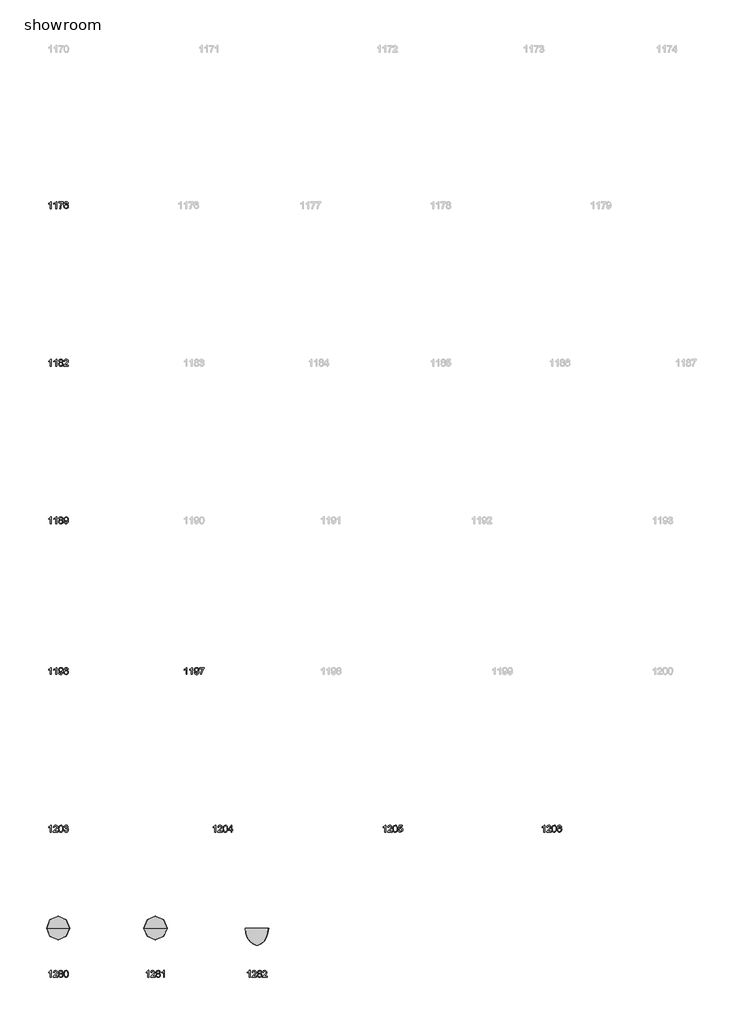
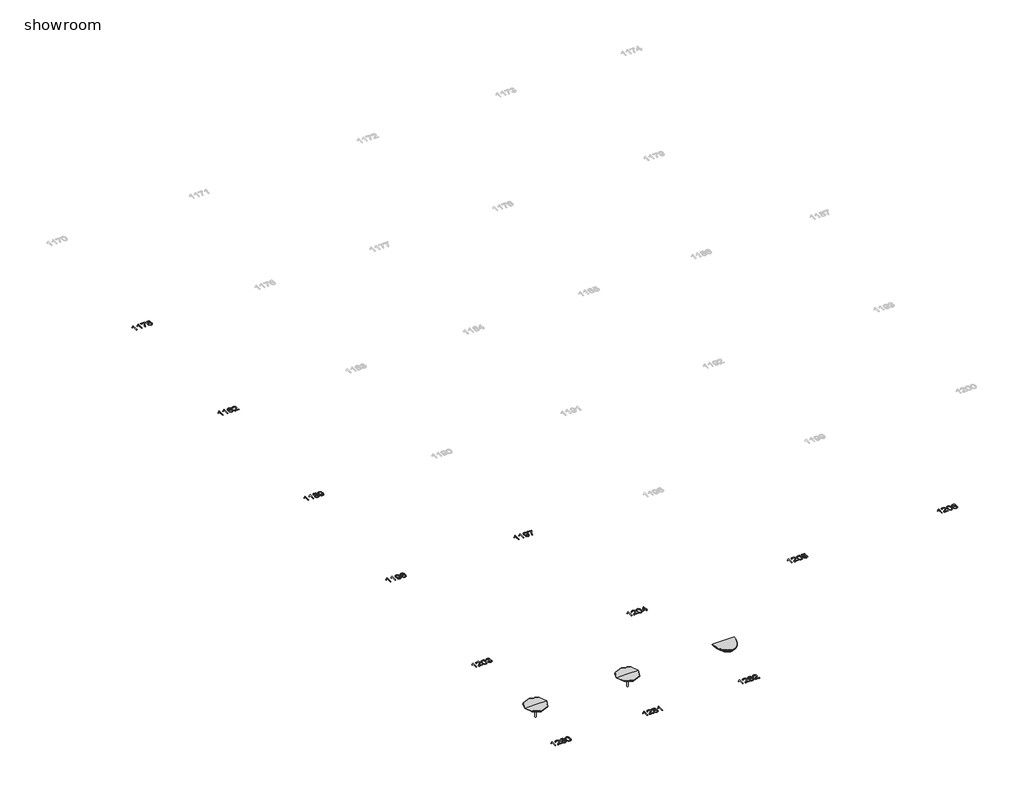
# One storey, part 1 of 5: 12 proxies, 3 furniture elements.
"""IFC4 building model written with IfcOpenShell, lengths in millimetres."""

from ifc_helpers import new_model, si_unit, origin, origin_with_axes, place, context, project, spatial, polyline, outline, extrude, transform, mapped, element, save
from components import furniture_37731700, furniture_d83bdb64

model = new_model("IFC4")

# Units and contexts
model_context = context("Model", 3, world=origin())
ifc_project = project(units=[si_unit("LENGTHUNIT", "METRE", prefix="MILLI")], contexts=[model_context])

# Site, building, storey
site = spatial("IfcSite", under=ifc_project)
building = spatial("IfcBuilding", under=site)
storey = spatial("IfcBuildingStorey", under=building, Name="showroom", Elevation=0.0)

# Proxies
placement = place(None, origin())
element("IfcBuildingElementProxy", 1, Name="100mm Arial", ObjectType="100mm Arial", at=placement, inside=storey, context=model_context, shape_type="SweptSolid", body=[
    extrude(outline(polyline([(-1709.6695901, -744.8979193), (-1722.2266289, -744.8979193), (-1722.2266289, -666.6126308), (-1734.1214801, -675.0861794), (-1747.3407064, -681.4260124), (-1747.3407064, -669.5556867), (-1728.9343439, -657.8079883), (-1717.762994, -644.4416092), (-1709.6695901, -644.4416092), (-1709.6695901, -744.8979193)])), origin_with_axes(), (0.0, 0.0, 1.0), 2.0),
    extrude(outline(polyline([(-1632.7577277, -744.8979193), (-1645.3147664, -744.8979193), (-1645.3147664, -666.6126308), (-1657.2096176, -675.0861794), (-1670.428844, -681.4260124), (-1670.428844, -669.5556867), (-1652.0224815, -657.8079883), (-1640.8511316, -644.4416092), (-1632.7577277, -644.4416092), (-1632.7577277, -744.8979193)])), origin_with_axes(), (0.0, 0.0, 1.0), 2.0),
    extrude(outline(polyline([(-1602.9347606, -658.5682778), (-1602.9347606, -646.011239), (-1537.0103071, -646.011239), (-1537.0103071, -656.1647821), (-1555.7109751, -683.1795833), (-1570.0215848, -717.6010753), (-1574.6814234, -744.8979193), (-1587.2384621, -744.8979193), (-1582.2475297, -716.5710057), (-1568.5500568, -684.5530094), (-1549.5673458, -658.5682778), (-1602.9347606, -658.5682778)])), origin_with_axes(), (0.0, 0.0, 1.0), 2.0),
    extrude(outline(polyline([(-1461.6680744, -671.1253166), (-1474.2251132, -672.6949464), (-1478.9830537, -662.2225723), (-1491.5646179, -656.9986479), (-1502.8953834, -660.0398058), (-1511.4670339, -671.4564104), (-1515.0354892, -693.8358984), (-1503.9622412, -683.8172454), (-1490.2402427, -680.5430956), (-1478.6396972, -682.7810444), (-1468.903087, -689.4948909), (-1462.2996052, -699.7526672), (-1460.0984446, -712.6224056), (-1464.2432484, -729.9496476), (-1475.6475903, -742.2123808), (-1492.1041782, -746.4675492), (-1506.3504084, -743.6471205), (-1517.6965023, -735.1858347), (-1525.1185216, -720.2498257), (-1527.592528, -698.0052277), (-1524.8456757, -672.9953834), (-1516.6051191, -655.895002), (-1505.3540614, -647.3049574), (-1490.779803, -644.4416092), (-1479.7617372, -646.2135741), (-1470.9387007, -651.529469), (-1464.7582832, -659.9723607), (-1461.6680744, -671.1253166)]), holes=[polyline([(-1515.0354892, -712.4262019), (-1512.1292214, -723.3032462), (-1504.4036995, -731.2004464), (-1493.0851968, -733.9105104), (-1484.7986549, -732.5064275), (-1478.2840779, -728.2941786), (-1474.062632, -721.6723027), (-1472.6554834, -713.0393385), (-1474.0442379, -704.7527966), (-1478.2105015, -698.4344233), (-1484.8354431, -694.4337066), (-1493.6002316, -693.1001344), (-1508.793758, -698.4344233), (-1513.4750564, -704.5995124), (-1515.0354892, -712.4262019)])]), origin_with_axes(), (0.0, 0.0, 1.0), 2.0),
])
element("IfcBuildingElementProxy", 2, Name="100mm Arial", ObjectType="100mm Arial", at=placement, inside=storey, context=model_context, shape_type="SweptSolid", body=[
    extrude(outline(polyline([(-1709.6695901, -3044.8979193), (-1722.2266289, -3044.8979193), (-1722.2266289, -2966.6126308), (-1734.1214801, -2975.0861794), (-1747.3407064, -2981.4260124), (-1747.3407064, -2969.5556867), (-1728.9343439, -2957.8079883), (-1717.762994, -2944.4416092), (-1709.6695901, -2944.4416092), (-1709.6695901, -3044.8979193)])), origin_with_axes(), (0.0, 0.0, 1.0), 2.0),
    extrude(outline(polyline([(-1632.7577277, -3044.8979193), (-1645.3147664, -3044.8979193), (-1645.3147664, -2966.6126308), (-1657.2096176, -2975.0861794), (-1670.428844, -2981.4260124), (-1670.428844, -2969.5556867), (-1652.0224815, -2957.8079883), (-1640.8511316, -2944.4416092), (-1632.7577277, -2944.4416092), (-1632.7577277, -3044.8979193)])), origin_with_axes(), (0.0, 0.0, 1.0), 2.0),
    extrude(outline(polyline([(-1584.6387627, -2989.5684673), (-1596.0798927, -2981.769369), (-1599.7955009, -2969.6292631), (-1597.7721499, -2959.8129452), (-1591.702097, -2951.7011472), (-1582.2659238, -2946.2564937), (-1570.1442121, -2944.4416092), (-1557.9489239, -2946.2994133), (-1548.3901234, -2951.8728255), (-1542.2097059, -2960.1133822), (-1540.1495667, -2969.9726196), (-1543.816124, -2981.8061572), (-1554.938423, -2989.5684673), (-1541.5843065, -2999.415442), (-1537.0103071, -3015.6635634), (-1539.2789127, -3027.6687792), (-1546.0847296, -3037.5893304), (-1556.5938919, -3044.2479945), (-1569.9725338, -3046.4675492), (-1583.3511757, -3044.2387974), (-1593.860338, -3037.5525422), (-1600.666155, -3027.5369548), (-1602.9347606, -3015.3202069), (-1598.1768201, -2998.6919407), (-1584.6387627, -2989.5684673)]), holes=[polyline([(-1590.3777218, -3014.8787485), (-1588.2807944, -3024.3333158), (-1580.8618409, -3031.4089128), (-1569.874432, -3033.9105104), (-1561.3273069, -3032.5953323), (-1554.9138975, -3028.6497979), (-1549.5673458, -3015.271156), (-1555.0855758, -3001.6349967), (-1561.646138, -2997.5882947), (-1570.2913649, -2996.2393941), (-1578.7189283, -2997.5699006), (-1585.0679584, -3001.5614203), (-1590.3777218, -3014.8787485)]), polyline([(-1587.2384621, -2969.9971451), (-1582.78709, -2979.8563826), (-1569.825381, -2983.6823553), (-1557.1211895, -2979.880908), (-1552.7066055, -2970.5612308), (-1557.2683423, -2960.9104598), (-1569.9725338, -2956.9986479), (-1582.7135136, -2960.8246207), (-1587.2384621, -2969.9971451)])]), origin_with_axes(), (0.0, 0.0, 1.0), 2.0),
    extrude(outline(polyline([(-1461.6680744, -3032.3408806), (-1461.6680744, -3044.8979193), (-1527.592528, -3044.8979193), (-1526.2436273, -3036.2404297), (-1518.6162073, -3022.9108388), (-1502.8953834, -3008.3549745), (-1481.2148711, -2987.4347517), (-1475.7947431, -2973.2099812), (-1480.9083028, -2961.6952748), (-1494.2624192, -2956.9986479), (-1508.1806214, -2961.5849102), (-1513.4658594, -2974.2645763), (-1526.0228981, -2972.6949464), (-1522.9786746, -2960.5487092), (-1516.3966526, -2951.6766218), (-1506.6201886, -2946.2503623), (-1493.9926391, -2944.4416092), (-1481.2731191, -2946.4526974), (-1471.5150492, -2952.4859621), (-1465.3070405, -2961.499071), (-1463.2377043, -2972.4496917), (-1465.4695217, -2984.3568057), (-1472.8884753, -2996.6685898), (-1490.8779049, -3013.8732044), (-1505.3234045, -3025.9519966), (-1510.9887873, -3032.3408806), (-1461.6680744, -3032.3408806)])), origin_with_axes(), (0.0, 0.0, 1.0), 2.0),
])
element("IfcBuildingElementProxy", 3, Name="100mm Arial", ObjectType="100mm Arial", at=placement, inside=storey, context=model_context, shape_type="SweptSolid", body=[
    extrude(outline(polyline([(-1709.6695901, -5344.8979193), (-1722.2266289, -5344.8979193), (-1722.2266289, -5266.6126308), (-1734.1214801, -5275.0861794), (-1747.3407064, -5281.4260124), (-1747.3407064, -5269.5556867), (-1728.9343439, -5257.8079883), (-1717.762994, -5244.4416092), (-1709.6695901, -5244.4416092), (-1709.6695901, -5344.8979193)])), origin_with_axes(), (0.0, 0.0, 1.0), 2.0),
    extrude(outline(polyline([(-1632.7577277, -5344.8979193), (-1645.3147664, -5344.8979193), (-1645.3147664, -5266.6126308), (-1657.2096176, -5275.0861794), (-1670.428844, -5281.4260124), (-1670.428844, -5269.5556867), (-1652.0224815, -5257.8079883), (-1640.8511316, -5244.4416092), (-1632.7577277, -5244.4416092), (-1632.7577277, -5344.8979193)])), origin_with_axes(), (0.0, 0.0, 1.0), 2.0),
    extrude(outline(polyline([(-1584.6387627, -5289.5684673), (-1596.0798927, -5281.769369), (-1599.7955009, -5269.6292631), (-1597.7721499, -5259.8129452), (-1591.702097, -5251.7011472), (-1582.2659238, -5246.2564937), (-1570.1442121, -5244.4416092), (-1557.9489239, -5246.2994133), (-1548.3901234, -5251.8728255), (-1542.2097059, -5260.1133822), (-1540.1495667, -5269.9726196), (-1543.816124, -5281.8061572), (-1554.938423, -5289.5684673), (-1541.5843065, -5299.415442), (-1537.0103071, -5315.6635634), (-1539.2789127, -5327.6687792), (-1546.0847296, -5337.5893304), (-1556.5938919, -5344.2479945), (-1569.9725338, -5346.4675492), (-1583.3511757, -5344.2387974), (-1593.860338, -5337.5525422), (-1600.666155, -5327.5369548), (-1602.9347606, -5315.3202069), (-1598.1768201, -5298.6919407), (-1584.6387627, -5289.5684673)]), holes=[polyline([(-1590.3777218, -5314.8787485), (-1588.2807944, -5324.3333158), (-1580.8618409, -5331.4089128), (-1569.874432, -5333.9105104), (-1561.3273069, -5332.5953323), (-1554.9138975, -5328.6497979), (-1549.5673458, -5315.271156), (-1555.0855758, -5301.6349967), (-1561.646138, -5297.5882947), (-1570.2913649, -5296.2393941), (-1578.7189283, -5297.5699006), (-1585.0679584, -5301.5614203), (-1590.3777218, -5314.8787485)]), polyline([(-1587.2384621, -5269.9971451), (-1582.78709, -5279.8563826), (-1569.825381, -5283.6823553), (-1557.1211895, -5279.880908), (-1552.7066055, -5270.5612308), (-1557.2683423, -5260.9104598), (-1569.9725338, -5256.9986479), (-1582.7135136, -5260.8246207), (-1587.2384621, -5269.9971451)])]), origin_with_axes(), (0.0, 0.0, 1.0), 2.0),
    extrude(outline(polyline([(-1524.4532683, -5319.7838418), (-1511.8962295, -5318.2142119), (-1506.2553723, -5330.1949023), (-1495.5622689, -5333.9105104), (-1485.3964631, -5331.5192774), (-1478.5048071, -5325.1303935), (-1474.3967915, -5314.2165609), (-1472.581907, -5299.6484339), (-1472.6554834, -5297.1958873), (-1482.6986618, -5306.7117682), (-1496.4697112, -5310.3660627), (-1507.9200383, -5308.1342453), (-1517.4512476, -5301.438793), (-1523.8799855, -5291.0951775), (-1526.0228981, -5277.9188707), (-1523.7757523, -5264.3072369), (-1517.0343147, -5253.6386591), (-1506.9083628, -5246.7408716), (-1494.5076739, -5244.4416092), (-1476.6163462, -5249.690059), (-1464.3045621, -5264.6505934), (-1460.0984446, -5292.7567779), (-1464.2922993, -5323.2541953), (-1469.5070266, -5333.2452571), (-1476.763499, -5340.5323863), (-1485.7490167, -5344.9837585), (-1496.1508801, -5346.4675492), (-1506.886903, -5344.717044), (-1515.4524221, -5339.4655285), (-1521.4427673, -5331.0440965), (-1524.4532683, -5319.7838418)]), holes=[polyline([(-1472.6554834, -5277.6245651), (-1474.0105154, -5269.1142283), (-1478.0756114, -5262.5659288), (-1484.3847876, -5258.3904682), (-1492.4720602, -5256.9986479), (-1500.8597697, -5258.4977671), (-1507.5797474, -5262.9951245), (-1511.9943314, -5269.8775835), (-1513.4658594, -5278.5320074), (-1512.0740391, -5286.2912518), (-1507.8985785, -5292.4502095), (-1501.3441476, -5296.4693203), (-1492.8154167, -5297.8090239), (-1478.3331288, -5292.4502095), (-1474.0748947, -5286.0643912), (-1472.6554834, -5277.6245651)])]), origin_with_axes(), (0.0, 0.0, 1.0), 2.0),
])
element("IfcBuildingElementProxy", 4, Name="100mm Arial", ObjectType="100mm Arial", at=placement, inside=storey, context=model_context, shape_type="SweptSolid", body=[
    extrude(outline(polyline([(-1709.6695901, -7544.8979193), (-1722.2266289, -7544.8979193), (-1722.2266289, -7466.6126308), (-1734.1214801, -7475.0861794), (-1747.3407064, -7481.4260124), (-1747.3407064, -7469.5556867), (-1728.9343439, -7457.8079883), (-1717.762994, -7444.4416092), (-1709.6695901, -7444.4416092), (-1709.6695901, -7544.8979193)])), origin_with_axes(), (0.0, 0.0, 1.0), 2.0),
    extrude(outline(polyline([(-1632.7577277, -7544.8979193), (-1645.3147664, -7544.8979193), (-1645.3147664, -7466.6126308), (-1657.2096176, -7475.0861794), (-1670.428844, -7481.4260124), (-1670.428844, -7469.5556867), (-1652.0224815, -7457.8079883), (-1640.8511316, -7444.4416092), (-1632.7577277, -7444.4416092), (-1632.7577277, -7544.8979193)])), origin_with_axes(), (0.0, 0.0, 1.0), 2.0),
    extrude(outline(polyline([(-1601.3651307, -7519.7838418), (-1588.808092, -7518.2142119), (-1583.1672347, -7530.1949023), (-1572.4741314, -7533.9105104), (-1562.3083256, -7531.5192774), (-1555.4166695, -7525.1303935), (-1551.3086539, -7514.2165609), (-1549.4937694, -7499.6484339), (-1549.5673458, -7497.1958873), (-1559.6105243, -7506.7117682), (-1573.3815736, -7510.3660627), (-1584.8319007, -7508.1342453), (-1594.3631101, -7501.438793), (-1600.791848, -7491.0951775), (-1602.9347606, -7477.9188707), (-1600.6876147, -7464.3072369), (-1593.9461772, -7453.6386591), (-1583.8202253, -7446.7408716), (-1571.4195363, -7444.4416092), (-1553.5282086, -7449.690059), (-1541.2164245, -7464.6505934), (-1537.0103071, -7492.7567779), (-1541.2041618, -7523.2541953), (-1546.4188891, -7533.2452571), (-1553.6753614, -7540.5323863), (-1562.6608792, -7544.9837585), (-1573.0627426, -7546.4675492), (-1583.7987655, -7544.717044), (-1592.3642846, -7539.4655285), (-1598.3546298, -7531.0440965), (-1601.3651307, -7519.7838418)]), holes=[polyline([(-1549.5673458, -7477.6245651), (-1550.9223778, -7469.1142283), (-1554.9874739, -7462.5659288), (-1561.2966501, -7458.3904682), (-1569.3839226, -7456.9986479), (-1577.7716321, -7458.4977671), (-1584.4916099, -7462.9951245), (-1588.9061938, -7469.8775835), (-1590.3777218, -7478.5320074), (-1588.9859016, -7486.2912518), (-1584.810441, -7492.4502095), (-1578.2560101, -7496.4693203), (-1569.7272792, -7497.8090239), (-1555.2449913, -7492.4502095), (-1550.9867572, -7486.0643912), (-1549.5673458, -7477.6245651)])]), origin_with_axes(), (0.0, 0.0, 1.0), 2.0),
    extrude(outline(polyline([(-1461.6680744, -7471.1253166), (-1474.2251132, -7472.6949464), (-1478.9830537, -7462.2225723), (-1491.5646179, -7456.9986479), (-1502.8953834, -7460.0398058), (-1511.4670339, -7471.4564104), (-1515.0354892, -7493.8358984), (-1503.9622412, -7483.8172454), (-1490.2402427, -7480.5430956), (-1478.6396972, -7482.7810444), (-1468.903087, -7489.4948909), (-1462.2996052, -7499.7526672), (-1460.0984446, -7512.6224056), (-1464.2432484, -7529.9496476), (-1475.6475903, -7542.2123808), (-1492.1041782, -7546.4675492), (-1506.3504084, -7543.6471205), (-1517.6965023, -7535.1858347), (-1525.1185216, -7520.2498257), (-1527.592528, -7498.0052277), (-1524.8456757, -7472.9953834), (-1516.6051191, -7455.895002), (-1505.3540614, -7447.3049574), (-1490.779803, -7444.4416092), (-1479.7617372, -7446.2135741), (-1470.9387007, -7451.529469), (-1464.7582832, -7459.9723607), (-1461.6680744, -7471.1253166)]), holes=[polyline([(-1515.0354892, -7512.4262019), (-1512.1292214, -7523.3032462), (-1504.4036995, -7531.2004464), (-1493.0851968, -7533.9105104), (-1484.7986549, -7532.5064275), (-1478.2840779, -7528.2941786), (-1474.062632, -7521.6723027), (-1472.6554834, -7513.0393385), (-1474.0442379, -7504.7527966), (-1478.2105015, -7498.4344233), (-1484.8354431, -7494.4337066), (-1493.6002316, -7493.1001344), (-1508.793758, -7498.4344233), (-1513.4750564, -7504.5995124), (-1515.0354892, -7512.4262019)])]), origin_with_axes(), (0.0, 0.0, 1.0), 2.0),
])
element("IfcBuildingElementProxy", 5, Name="100mm Arial", ObjectType="100mm Arial", at=placement, inside=storey, context=model_context, shape_type="SweptSolid", body=[
    extrude(outline(polyline([(270.3304099, -7544.8979193), (257.7733711, -7544.8979193), (257.7733711, -7466.6126308), (245.8785199, -7475.0861794), (232.6592936, -7481.4260124), (232.6592936, -7469.5556867), (251.0656561, -7457.8079883), (262.237006, -7444.4416092), (270.3304099, -7444.4416092), (270.3304099, -7544.8979193)])), origin_with_axes(), (0.0, 0.0, 1.0), 2.0),
    extrude(outline(polyline([(347.2422723, -7544.8979193), (334.6852336, -7544.8979193), (334.6852336, -7466.6126308), (322.7903824, -7475.0861794), (309.571156, -7481.4260124), (309.571156, -7469.5556867), (327.9775185, -7457.8079883), (339.1488684, -7444.4416092), (347.2422723, -7444.4416092), (347.2422723, -7544.8979193)])), origin_with_axes(), (0.0, 0.0, 1.0), 2.0),
    extrude(outline(polyline([(378.6348693, -7519.7838418), (391.191908, -7518.2142119), (396.8327653, -7530.1949023), (407.5258686, -7533.9105104), (417.6916744, -7531.5192774), (424.5833305, -7525.1303935), (428.6913461, -7514.2165609), (430.5062306, -7499.6484339), (430.4326542, -7497.1958873), (420.3894757, -7506.7117682), (406.6184264, -7510.3660627), (395.1680993, -7508.1342453), (385.6368899, -7501.438793), (379.208152, -7491.0951775), (377.0652394, -7477.9188707), (379.3123853, -7464.3072369), (386.0538228, -7453.6386591), (396.1797747, -7446.7408716), (408.5804637, -7444.4416092), (426.4717914, -7449.690059), (438.7835755, -7464.6505934), (442.9896929, -7492.7567779), (438.7958382, -7523.2541953), (433.5811109, -7533.2452571), (426.3246386, -7540.5323863), (417.3391208, -7544.9837585), (406.9372574, -7546.4675492), (396.2012345, -7544.717044), (387.6357154, -7539.4655285), (381.6453702, -7531.0440965), (378.6348693, -7519.7838418)]), holes=[polyline([(430.4326542, -7477.6245651), (429.0776222, -7469.1142283), (425.0125261, -7462.5659288), (418.7033499, -7458.3904682), (410.6160774, -7456.9986479), (402.2283679, -7458.4977671), (395.5083901, -7462.9951245), (391.0938062, -7469.8775835), (389.6222782, -7478.5320074), (391.0140984, -7486.2912518), (395.189559, -7492.4502095), (401.7439899, -7496.4693203), (410.2727208, -7497.8090239), (424.7550087, -7492.4502095), (429.0132428, -7486.0643912), (430.4326542, -7477.6245651)])]), origin_with_axes(), (0.0, 0.0, 1.0), 2.0),
    extrude(outline(polyline([(453.9771019, -7458.5682778), (453.9771019, -7446.011239), (519.9015554, -7446.011239), (519.9015554, -7456.1647821), (501.2008873, -7483.1795833), (486.8902777, -7517.6010753), (482.2304391, -7544.8979193), (469.6734003, -7544.8979193), (474.6643327, -7516.5710057), (488.3618057, -7484.5530094), (507.3445166, -7458.5682778), (453.9771019, -7458.5682778)])), origin_with_axes(), (0.0, 0.0, 1.0), 2.0),
])
element("IfcBuildingElementProxy", 6, Name="100mm Arial", ObjectType="100mm Arial", at=placement, inside=storey, context=model_context, shape_type="SweptSolid", body=[
    extrude(outline(polyline([(-1709.6695901, -9844.8979193), (-1722.2266289, -9844.8979193), (-1722.2266289, -9766.6126308), (-1734.1214801, -9775.0861794), (-1747.3407064, -9781.4260124), (-1747.3407064, -9769.5556867), (-1728.9343439, -9757.8079883), (-1717.762994, -9744.4416092), (-1709.6695901, -9744.4416092), (-1709.6695901, -9844.8979193)])), origin_with_axes(), (0.0, 0.0, 1.0), 2.0),
    extrude(outline(polyline([(-1615.4917994, -9832.3408806), (-1615.4917994, -9844.8979193), (-1681.4162529, -9844.8979193), (-1680.0673522, -9836.2404297), (-1672.4399322, -9822.9108388), (-1656.7191083, -9808.3549745), (-1635.038596, -9787.4347517), (-1629.618468, -9773.2099812), (-1634.7320277, -9761.6952748), (-1648.0861441, -9756.9986479), (-1662.0043463, -9761.5849102), (-1667.2895843, -9774.2645763), (-1679.846623, -9772.6949464), (-1676.8023995, -9760.5487092), (-1670.2203775, -9751.6766218), (-1660.4439135, -9746.2503623), (-1647.816364, -9744.4416092), (-1635.096844, -9746.4526974), (-1625.3387741, -9752.4859621), (-1619.1307654, -9761.499071), (-1617.0614292, -9772.4496917), (-1619.2932466, -9784.3568057), (-1626.7122002, -9796.6685898), (-1644.7016298, -9813.8732044), (-1659.1471295, -9825.9519966), (-1664.8125122, -9832.3408806), (-1615.4917994, -9832.3408806)])), origin_with_axes(), (0.0, 0.0, 1.0), 2.0),
    extrude(outline(polyline([(-1602.9347606, -9795.4791046), (-1599.2436779, -9766.5758426), (-1588.2807944, -9749.9107882), (-1569.9725338, -9744.4416092), (-1555.3063049, -9747.6789707), (-1545.1772873, -9757.0109107), (-1539.2911754, -9771.8733433), (-1537.0103071, -9795.4791046), (-1540.6646015, -9824.2597394), (-1551.5906968, -9840.961582), (-1559.8220564, -9845.0910574), (-1569.9725338, -9846.4675492), (-1583.0200819, -9844.0763162), (-1592.9283703, -9836.9026173), (-1600.433163, -9819.9126005), (-1602.9347606, -9795.4791046)]), holes=[polyline([(-1590.3777218, -9795.4545792), (-1588.9061938, -9815.2067766), (-1584.4916099, -9826.6387096), (-1577.9187849, -9832.0925602), (-1569.9725338, -9833.9105104), (-1562.0262827, -9832.0864288), (-1555.4534577, -9826.6141842), (-1551.0388738, -9815.1761198), (-1549.5673458, -9795.4545792), (-1550.9898229, -9776.1469058), (-1555.257254, -9764.626068), (-1561.8178163, -9758.905503), (-1570.1196866, -9756.9986479), (-1577.9800986, -9758.6786424), (-1584.2954062, -9763.7186257), (-1588.8571429, -9775.9568334), (-1590.3777218, -9795.4545792)])]), origin_with_axes(), (0.0, 0.0, 1.0), 2.0),
    extrude(outline(polyline([(-1526.0228981, -9818.2142119), (-1513.4658594, -9816.6445821), (-1506.5374151, -9829.8638085), (-1493.5757062, -9833.9105104), (-1484.9672675, -9832.5186902), (-1478.3208661, -9828.3432295), (-1472.6554834, -9814.5599175), (-1478.2718152, -9801.573683), (-1492.5456366, -9796.4355978), (-1501.350279, -9797.8090239), (-1499.9523274, -9785.2519852), (-1497.9412392, -9785.399138), (-1483.6919432, -9781.7938944), (-1478.9462655, -9777.2198949), (-1477.3643729, -9770.7083836), (-1481.9506351, -9760.8859344), (-1493.7719099, -9756.9986479), (-1505.7403375, -9760.9227226), (-1511.8962295, -9772.6949464), (-1524.4532683, -9771.1253166), (-1520.7560542, -9759.8497334), (-1514.1770979, -9751.4313671), (-1505.1762517, -9746.1890487), (-1494.2133683, -9744.4416092), (-1479.0688928, -9747.8874372), (-1468.4738914, -9757.3052163), (-1464.8073341, -9769.9726196), (-1468.2899504, -9781.5486398), (-1478.5906462, -9789.8627728), (-1464.905436, -9798.4466861), (-1460.0984446, -9814.7806467), (-1462.5019403, -9827.0188544), (-1469.7124274, -9837.2459738), (-1480.5956031, -9844.1621553), (-1494.0171646, -9846.4675492), (-1506.1572704, -9844.4993805), (-1516.0410333, -9838.5948745), (-1522.9142953, -9829.5633715), (-1526.0228981, -9818.2142119)])), origin_with_axes(), (0.0, 0.0, 1.0), 2.0),
])
element("IfcBuildingElementProxy", 7, Name="100mm Arial", ObjectType="100mm Arial", at=placement, inside=storey, context=model_context, shape_type="SweptSolid", body=[
    extrude(outline(polyline([(690.3304099, -9844.8979193), (677.7733711, -9844.8979193), (677.7733711, -9766.6126308), (665.8785199, -9775.0861794), (652.6592936, -9781.4260124), (652.6592936, -9769.5556867), (671.0656561, -9757.8079883), (682.237006, -9744.4416092), (690.3304099, -9744.4416092), (690.3304099, -9844.8979193)])), origin_with_axes(), (0.0, 0.0, 1.0), 2.0),
    extrude(outline(polyline([(784.5082006, -9832.3408806), (784.5082006, -9844.8979193), (718.5837471, -9844.8979193), (719.9326478, -9836.2404297), (727.5600678, -9822.9108388), (743.2808917, -9808.3549745), (764.961404, -9787.4347517), (770.381532, -9773.2099812), (765.2679723, -9761.6952748), (751.9138559, -9756.9986479), (737.9956537, -9761.5849102), (732.7104157, -9774.2645763), (720.153377, -9772.6949464), (723.1976005, -9760.5487092), (729.7796225, -9751.6766218), (739.5560865, -9746.2503623), (752.183636, -9744.4416092), (764.903156, -9746.4526974), (774.6612259, -9752.4859621), (780.8692346, -9761.499071), (782.9385708, -9772.4496917), (780.7067534, -9784.3568057), (773.2877998, -9796.6685898), (755.2983702, -9813.8732044), (740.8528705, -9825.9519966), (735.1874878, -9832.3408806), (784.5082006, -9832.3408806)])), origin_with_axes(), (0.0, 0.0, 1.0), 2.0),
    extrude(outline(polyline([(797.0652394, -9795.4791046), (800.7563221, -9766.5758426), (811.7192056, -9749.9107882), (830.0274662, -9744.4416092), (844.6936951, -9747.6789707), (854.8227127, -9757.0109107), (860.7088246, -9771.8733433), (862.9896929, -9795.4791046), (859.3353985, -9824.2597394), (848.4093032, -9840.961582), (840.1779436, -9845.0910574), (830.0274662, -9846.4675492), (816.9799181, -9844.0763162), (807.0716297, -9836.9026173), (799.566837, -9819.9126005), (797.0652394, -9795.4791046)]), holes=[polyline([(809.6222782, -9795.4545792), (811.0938062, -9815.2067766), (815.5083901, -9826.6387096), (822.0812151, -9832.0925602), (830.0274662, -9833.9105104), (837.9737173, -9832.0864288), (844.5465423, -9826.6141842), (848.9611262, -9815.1761198), (850.4326542, -9795.4545792), (849.0101771, -9776.1469058), (844.742746, -9764.626068), (838.1821837, -9758.905503), (829.8803134, -9756.9986479), (822.0199014, -9758.6786424), (815.7045938, -9763.7186257), (811.1428571, -9775.9568334), (809.6222782, -9795.4545792)])]), origin_with_axes(), (0.0, 0.0, 1.0), 2.0),
    extrude(outline(polyline([(914.7874779, -9844.8979193), (914.7874779, -9821.3534716), (869.2682123, -9821.3534716), (869.2682123, -9808.7964329), (917.9267376, -9746.011239), (927.3445166, -9746.011239), (927.3445166, -9808.7964329), (939.9015554, -9808.7964329), (939.9015554, -9821.3534716), (927.3445166, -9821.3534716), (927.3445166, -9844.8979193), (914.7874779, -9844.8979193)]), holes=[polyline([(914.7874779, -9808.7964329), (914.7874779, -9769.9971451), (884.7192561, -9808.7964329), (914.7874779, -9808.7964329)])]), origin_with_axes(), (0.0, 0.0, 1.0), 2.0),
])
element("IfcBuildingElementProxy", 8, Name="100mm Arial", ObjectType="100mm Arial", at=placement, inside=storey, context=model_context, shape_type="SweptSolid", body=[
    extrude(outline(polyline([(3170.3304099, -9844.8979193), (3157.7733711, -9844.8979193), (3157.7733711, -9766.6126308), (3145.8785199, -9775.0861794), (3132.6592936, -9781.4260124), (3132.6592936, -9769.5556867), (3151.0656561, -9757.8079883), (3162.237006, -9744.4416092), (3170.3304099, -9744.4416092), (3170.3304099, -9844.8979193)])), origin_with_axes(), (0.0, 0.0, 1.0), 2.0),
    extrude(outline(polyline([(3264.5082006, -9832.3408806), (3264.5082006, -9844.8979193), (3198.5837471, -9844.8979193), (3199.9326478, -9836.2404297), (3207.5600678, -9822.9108388), (3223.2808917, -9808.3549745), (3244.961404, -9787.4347517), (3250.381532, -9773.2099812), (3245.2679723, -9761.6952748), (3231.9138559, -9756.9986479), (3217.9956537, -9761.5849102), (3212.7104157, -9774.2645763), (3200.153377, -9772.6949464), (3203.1976005, -9760.5487092), (3209.7796225, -9751.6766218), (3219.5560865, -9746.2503623), (3232.183636, -9744.4416092), (3244.903156, -9746.4526974), (3254.6612259, -9752.4859621), (3260.8692346, -9761.499071), (3262.9385708, -9772.4496917), (3260.7067534, -9784.3568057), (3253.2877998, -9796.6685898), (3235.2983702, -9813.8732044), (3220.8528705, -9825.9519966), (3215.1874878, -9832.3408806), (3264.5082006, -9832.3408806)])), origin_with_axes(), (0.0, 0.0, 1.0), 2.0),
    extrude(outline(polyline([(3277.0652394, -9795.4791046), (3280.7563221, -9766.5758426), (3291.7192056, -9749.9107882), (3310.0274662, -9744.4416092), (3324.6936951, -9747.6789707), (3334.8227127, -9757.0109107), (3340.7088246, -9771.8733433), (3342.9896929, -9795.4791046), (3339.3353985, -9824.2597394), (3328.4093032, -9840.961582), (3320.1779436, -9845.0910574), (3310.0274662, -9846.4675492), (3296.9799181, -9844.0763162), (3287.0716297, -9836.9026173), (3279.566837, -9819.9126005), (3277.0652394, -9795.4791046)]), holes=[polyline([(3289.6222782, -9795.4545792), (3291.0938062, -9815.2067766), (3295.5083901, -9826.6387096), (3302.0812151, -9832.0925602), (3310.0274662, -9833.9105104), (3317.9737173, -9832.0864288), (3324.5465423, -9826.6141842), (3328.9611262, -9815.1761198), (3330.4326542, -9795.4545792), (3329.0101771, -9776.1469058), (3324.742746, -9764.626068), (3318.1821837, -9758.905503), (3309.8803134, -9756.9986479), (3302.0199014, -9758.6786424), (3295.7045938, -9763.7186257), (3291.1428571, -9775.9568334), (3289.6222782, -9795.4545792)])]), origin_with_axes(), (0.0, 0.0, 1.0), 2.0),
    extrude(outline(polyline([(3353.9771019, -9818.2142119), (3366.5341406, -9816.6445821), (3372.861711, -9829.5817656), (3385.9828354, -9833.9105104), (3394.9836816, -9832.4052599), (3401.7281848, -9827.8895084), (3405.9404337, -9820.8844221), (3407.3445166, -9811.9111671), (3402.0838041, -9796.9996836), (3395.4772566, -9792.8977993), (3386.1790392, -9791.5305046), (3375.1548421, -9793.7132711), (3368.1037705, -9799.3786538), (3355.5467317, -9797.8090239), (3366.5341406, -9746.011239), (3415.1926659, -9746.011239), (3415.1926659, -9758.5682778), (3376.6876837, -9758.5682778), (3371.3166066, -9786.2330038), (3380.2867959, -9780.7883503), (3389.6861809, -9778.9734658), (3401.4185508, -9781.2236773), (3411.1582267, -9787.9743119), (3417.7157232, -9798.2627451), (3419.9015554, -9811.1263522), (3417.9333867, -9823.6833909), (3412.0288807, -9834.4255452), (3400.7226407, -9843.4570482), (3385.9337845, -9846.4675492), (3373.6005406, -9844.533103), (3363.7750257, -9838.7297645), (3357.0397195, -9829.7319841), (3353.9771019, -9818.2142119)])), origin_with_axes(), (0.0, 0.0, 1.0), 2.0),
])
element("IfcBuildingElementProxy", 9, Name="100mm Arial", ObjectType="100mm Arial", at=placement, inside=storey, context=model_context, shape_type="SweptSolid", body=[
    extrude(outline(polyline([(5490.3304099, -9844.8979193), (5477.7733711, -9844.8979193), (5477.7733711, -9766.6126308), (5465.8785199, -9775.0861794), (5452.6592936, -9781.4260124), (5452.6592936, -9769.5556867), (5471.0656561, -9757.8079883), (5482.237006, -9744.4416092), (5490.3304099, -9744.4416092), (5490.3304099, -9844.8979193)])), origin_with_axes(), (0.0, 0.0, 1.0), 2.0),
    extrude(outline(polyline([(5584.5082006, -9832.3408806), (5584.5082006, -9844.8979193), (5518.5837471, -9844.8979193), (5519.9326478, -9836.2404297), (5527.5600678, -9822.9108388), (5543.2808917, -9808.3549745), (5564.961404, -9787.4347517), (5570.381532, -9773.2099812), (5565.2679723, -9761.6952748), (5551.9138559, -9756.9986479), (5537.9956537, -9761.5849102), (5532.7104157, -9774.2645763), (5520.153377, -9772.6949464), (5523.1976005, -9760.5487092), (5529.7796225, -9751.6766218), (5539.5560865, -9746.2503623), (5552.183636, -9744.4416092), (5564.903156, -9746.4526974), (5574.6612259, -9752.4859621), (5580.8692346, -9761.499071), (5582.9385708, -9772.4496917), (5580.7067534, -9784.3568057), (5573.2877998, -9796.6685898), (5555.2983702, -9813.8732044), (5540.8528705, -9825.9519966), (5535.1874878, -9832.3408806), (5584.5082006, -9832.3408806)])), origin_with_axes(), (0.0, 0.0, 1.0), 2.0),
    extrude(outline(polyline([(5597.0652394, -9795.4791046), (5600.7563221, -9766.5758426), (5611.7192056, -9749.9107882), (5630.0274662, -9744.4416092), (5644.6936951, -9747.6789707), (5654.8227127, -9757.0109107), (5660.7088246, -9771.8733433), (5662.9896929, -9795.4791046), (5659.3353985, -9824.2597394), (5648.4093032, -9840.961582), (5640.1779436, -9845.0910574), (5630.0274662, -9846.4675492), (5616.9799181, -9844.0763162), (5607.0716297, -9836.9026173), (5599.566837, -9819.9126005), (5597.0652394, -9795.4791046)]), holes=[polyline([(5609.6222782, -9795.4545792), (5611.0938062, -9815.2067766), (5615.5083901, -9826.6387096), (5622.0812151, -9832.0925602), (5630.0274662, -9833.9105104), (5637.9737173, -9832.0864288), (5644.5465423, -9826.6141842), (5648.9611262, -9815.1761198), (5650.4326542, -9795.4545792), (5649.0101771, -9776.1469058), (5644.742746, -9764.626068), (5638.1821837, -9758.905503), (5629.8803134, -9756.9986479), (5622.0199014, -9758.6786424), (5615.7045938, -9763.7186257), (5611.1428571, -9775.9568334), (5609.6222782, -9795.4545792)])]), origin_with_axes(), (0.0, 0.0, 1.0), 2.0),
    extrude(outline(polyline([(5738.3319256, -9771.1253166), (5725.7748868, -9772.6949464), (5721.0169463, -9762.2225723), (5708.4353821, -9756.9986479), (5697.1046166, -9760.0398058), (5688.5329661, -9771.4564104), (5684.9645108, -9793.8358984), (5696.0377588, -9783.8172454), (5709.7597573, -9780.5430956), (5721.3603028, -9782.7810444), (5731.096913, -9789.4948909), (5737.7003948, -9799.7526672), (5739.9015554, -9812.6224056), (5735.7567516, -9829.9496476), (5724.3524097, -9842.2123808), (5707.8958218, -9846.4675492), (5693.6495916, -9843.6471205), (5682.3034977, -9835.1858347), (5674.8814784, -9820.2498257), (5672.407472, -9798.0052277), (5675.1543243, -9772.9953834), (5683.3948809, -9755.895002), (5694.6459386, -9747.3049574), (5709.220197, -9744.4416092), (5720.2382628, -9746.2135741), (5729.0612993, -9751.529469), (5735.2417168, -9759.9723607), (5738.3319256, -9771.1253166)]), holes=[polyline([(5684.9645108, -9812.4262019), (5687.8707786, -9823.3032462), (5695.5963005, -9831.2004464), (5706.9148032, -9833.9105104), (5715.2013451, -9832.5064275), (5721.7159221, -9828.2941786), (5725.937368, -9821.6723027), (5727.3445166, -9813.0393385), (5725.9557621, -9804.7527966), (5721.7894985, -9798.4344233), (5715.1645569, -9794.4337066), (5706.3997684, -9793.1001344), (5691.206242, -9798.4344233), (5686.5249436, -9804.5995124), (5684.9645108, -9812.4262019)])]), origin_with_axes(), (0.0, 0.0, 1.0), 2.0),
])
element("IfcBuildingElementProxy", 10, Name="100mm Arial", ObjectType="100mm Arial", at=placement, inside=storey, context=model_context, shape_type="SweptSolid", body=[
    extrude(outline(polyline([(-1709.6695901, -11964.8979193), (-1722.2266289, -11964.8979193), (-1722.2266289, -11886.6126308), (-1734.1214801, -11895.0861794), (-1747.3407064, -11901.4260124), (-1747.3407064, -11889.5556867), (-1728.9343439, -11877.8079883), (-1717.762994, -11864.4416092), (-1709.6695901, -11864.4416092), (-1709.6695901, -11964.8979193)])), origin_with_axes(), (0.0, 0.0, 1.0), 2.0),
    extrude(outline(polyline([(-1615.4917994, -11952.3408806), (-1615.4917994, -11964.8979193), (-1681.4162529, -11964.8979193), (-1680.0673522, -11956.2404297), (-1672.4399322, -11942.9108387), (-1656.7191083, -11928.3549745), (-1635.038596, -11907.4347517), (-1629.618468, -11893.2099812), (-1634.7320277, -11881.6952748), (-1648.0861441, -11876.9986479), (-1662.0043463, -11881.5849102), (-1667.2895843, -11894.2645763), (-1679.846623, -11892.6949464), (-1676.8023995, -11880.5487092), (-1670.2203775, -11871.6766218), (-1660.4439135, -11866.2503623), (-1647.816364, -11864.4416092), (-1635.096844, -11866.4526974), (-1625.3387741, -11872.4859621), (-1619.1307654, -11881.499071), (-1617.0614292, -11892.4496917), (-1619.2932466, -11904.3568057), (-1626.7122002, -11916.6685898), (-1644.7016298, -11933.8732044), (-1659.1471295, -11945.9519966), (-1664.8125122, -11952.3408806), (-1615.4917994, -11952.3408806)])), origin_with_axes(), (0.0, 0.0, 1.0), 2.0),
    extrude(outline(polyline([(-1584.6387627, -11909.5684673), (-1596.0798927, -11901.769369), (-1599.7955009, -11889.6292631), (-1597.7721499, -11879.8129452), (-1591.702097, -11871.7011472), (-1582.2659238, -11866.2564937), (-1570.1442121, -11864.4416092), (-1557.9489239, -11866.2994133), (-1548.3901234, -11871.8728255), (-1542.2097059, -11880.1133822), (-1540.1495667, -11889.9726196), (-1543.816124, -11901.8061572), (-1554.938423, -11909.5684673), (-1541.5843065, -11919.415442), (-1537.0103071, -11935.6635634), (-1539.2789127, -11947.6687792), (-1546.0847296, -11957.5893304), (-1556.5938919, -11964.2479945), (-1569.9725338, -11966.4675492), (-1583.3511757, -11964.2387974), (-1593.860338, -11957.5525422), (-1600.666155, -11947.5369548), (-1602.9347606, -11935.3202069), (-1598.1768201, -11918.6919407), (-1584.6387627, -11909.5684673)]), holes=[polyline([(-1590.3777218, -11934.8787485), (-1588.2807944, -11944.3333158), (-1580.8618409, -11951.4089128), (-1569.874432, -11953.9105104), (-1561.3273069, -11952.5953323), (-1554.9138975, -11948.6497979), (-1549.5673458, -11935.271156), (-1555.0855758, -11921.6349967), (-1561.646138, -11917.5882947), (-1570.2913649, -11916.2393941), (-1578.7189283, -11917.5699006), (-1585.0679584, -11921.5614203), (-1590.3777218, -11934.8787485)]), polyline([(-1587.2384621, -11889.9971451), (-1582.78709, -11899.8563826), (-1569.825381, -11903.6823553), (-1557.1211895, -11899.880908), (-1552.7066055, -11890.5612308), (-1557.2683423, -11880.9104598), (-1569.9725338, -11876.9986479), (-1582.7135136, -11880.8246207), (-1587.2384621, -11889.9971451)])]), origin_with_axes(), (0.0, 0.0, 1.0), 2.0),
    extrude(outline(polyline([(-1526.0228981, -11915.4791046), (-1522.3318154, -11886.5758426), (-1511.368932, -11869.9107882), (-1493.0606714, -11864.4416092), (-1478.3944425, -11867.6789707), (-1468.2654249, -11877.0109107), (-1462.379313, -11891.8733433), (-1460.0984446, -11915.4791046), (-1463.7527391, -11944.2597394), (-1474.6788343, -11960.961582), (-1482.910194, -11965.0910574), (-1493.0606714, -11966.4675492), (-1506.1082195, -11964.0763162), (-1516.0165079, -11956.9026173), (-1523.5213006, -11939.9126005), (-1526.0228981, -11915.4791046)]), holes=[polyline([(-1513.4658594, -11915.4545792), (-1511.9943314, -11935.2067766), (-1507.5797474, -11946.6387096), (-1501.0069225, -11952.0925602), (-1493.0606714, -11953.9105104), (-1485.1144203, -11952.0864288), (-1478.5415953, -11946.6141842), (-1474.1270113, -11935.1761198), (-1472.6554834, -11915.4545792), (-1474.0779604, -11896.1469058), (-1478.3453916, -11884.626068), (-1484.9059538, -11878.905503), (-1493.2078242, -11876.9986479), (-1501.0682361, -11878.6786424), (-1507.3835437, -11883.7186257), (-1511.9452805, -11895.9568334), (-1513.4658594, -11915.4545792)])]), origin_with_axes(), (0.0, 0.0, 1.0), 2.0),
])
element("IfcBuildingElementProxy", 11, Name="100mm Arial", ObjectType="100mm Arial", at=placement, inside=storey, context=model_context, shape_type="SweptSolid", body=[
    extrude(outline(polyline([(-289.6695901, -11964.8979193), (-302.2266289, -11964.8979193), (-302.2266289, -11886.6126308), (-314.1214801, -11895.0861794), (-327.3407064, -11901.4260124), (-327.3407064, -11889.5556867), (-308.9343439, -11877.8079883), (-297.762994, -11864.4416092), (-289.6695901, -11864.4416092), (-289.6695901, -11964.8979193)])), origin_with_axes(), (0.0, 0.0, 1.0), 2.0),
    extrude(outline(polyline([(-195.4917994, -11952.3408806), (-195.4917994, -11964.8979193), (-261.4162529, -11964.8979193), (-260.0673522, -11956.2404297), (-252.4399322, -11942.9108388), (-236.7191083, -11928.3549745), (-215.038596, -11907.4347517), (-209.618468, -11893.2099812), (-214.7320277, -11881.6952748), (-228.0861441, -11876.9986479), (-242.0043463, -11881.5849102), (-247.2895843, -11894.2645763), (-259.846623, -11892.6949464), (-256.8023995, -11880.5487092), (-250.2203775, -11871.6766218), (-240.4439135, -11866.2503623), (-227.816364, -11864.4416092), (-215.096844, -11866.4526974), (-205.3387741, -11872.4859621), (-199.1307654, -11881.499071), (-197.0614292, -11892.4496917), (-199.2932466, -11904.3568057), (-206.7122002, -11916.6685898), (-224.7016298, -11933.8732044), (-239.1471295, -11945.9519966), (-244.8125122, -11952.3408806), (-195.4917994, -11952.3408806)])), origin_with_axes(), (0.0, 0.0, 1.0), 2.0),
    extrude(outline(polyline([(-164.6387627, -11909.5684673), (-176.0798927, -11901.769369), (-179.7955009, -11889.6292631), (-177.7721499, -11879.8129452), (-171.702097, -11871.7011472), (-162.2659238, -11866.2564937), (-150.1442121, -11864.4416092), (-137.9489239, -11866.2994133), (-128.3901234, -11871.8728255), (-122.2097059, -11880.1133822), (-120.1495667, -11889.9726196), (-123.816124, -11901.8061572), (-134.938423, -11909.5684673), (-121.5843065, -11919.415442), (-117.0103071, -11935.6635634), (-119.2789127, -11947.6687792), (-126.0847296, -11957.5893304), (-136.5938919, -11964.2479945), (-149.9725338, -11966.4675492), (-163.3511757, -11964.2387974), (-173.860338, -11957.5525422), (-180.666155, -11947.5369548), (-182.9347606, -11935.3202069), (-178.1768201, -11918.6919407), (-164.6387627, -11909.5684673)]), holes=[polyline([(-170.3777218, -11934.8787485), (-168.2807944, -11944.3333158), (-160.8618409, -11951.4089128), (-149.874432, -11953.9105104), (-141.3273069, -11952.5953323), (-134.9138975, -11948.6497979), (-129.5673458, -11935.271156), (-135.0855758, -11921.6349967), (-141.646138, -11917.5882947), (-150.2913649, -11916.2393941), (-158.7189283, -11917.5699006), (-165.0679584, -11921.5614203), (-170.3777218, -11934.8787485)]), polyline([(-167.2384621, -11889.9971451), (-162.78709, -11899.8563826), (-149.825381, -11903.6823553), (-137.1211895, -11899.880908), (-132.7066055, -11890.5612308), (-137.2683423, -11880.9104598), (-149.9725338, -11876.9986479), (-162.7135136, -11880.8246207), (-167.2384621, -11889.9971451)])]), origin_with_axes(), (0.0, 0.0, 1.0), 2.0),
    extrude(outline(polyline([(-58.9340027, -11964.8979193), (-71.4910415, -11964.8979193), (-71.4910415, -11886.6126308), (-83.3858927, -11895.0861794), (-96.6051191, -11901.4260124), (-96.6051191, -11889.5556867), (-78.1987566, -11877.8079883), (-67.0274066, -11864.4416092), (-58.9340027, -11864.4416092), (-58.9340027, -11964.8979193)])), origin_with_axes(), (0.0, 0.0, 1.0), 2.0),
])
element("IfcBuildingElementProxy", 12, Name="100mm Arial", ObjectType="100mm Arial", at=placement, inside=storey, context=model_context, shape_type="SweptSolid", body=[
    extrude(outline(polyline([(1190.3304099, -11964.8979193), (1177.7733711, -11964.8979193), (1177.7733711, -11886.6126308), (1165.8785199, -11895.0861794), (1152.6592936, -11901.4260124), (1152.6592936, -11889.5556867), (1171.0656561, -11877.8079883), (1182.237006, -11864.4416092), (1190.3304099, -11864.4416092), (1190.3304099, -11964.8979193)])), origin_with_axes(), (0.0, 0.0, 1.0), 2.0),
    extrude(outline(polyline([(1284.5082006, -11952.3408806), (1284.5082006, -11964.8979193), (1218.5837471, -11964.8979193), (1219.9326478, -11956.2404297), (1227.5600678, -11942.9108388), (1243.2808917, -11928.3549745), (1264.961404, -11907.4347517), (1270.381532, -11893.2099812), (1265.2679723, -11881.6952748), (1251.9138559, -11876.9986479), (1237.9956537, -11881.5849102), (1232.7104157, -11894.2645763), (1220.153377, -11892.6949464), (1223.1976005, -11880.5487092), (1229.7796225, -11871.6766218), (1239.5560865, -11866.2503623), (1252.183636, -11864.4416092), (1264.903156, -11866.4526974), (1274.6612259, -11872.4859621), (1280.8692346, -11881.499071), (1282.9385708, -11892.4496917), (1280.7067534, -11904.3568057), (1273.2877998, -11916.6685898), (1255.2983702, -11933.8732044), (1240.8528705, -11945.9519966), (1235.1874878, -11952.3408806), (1284.5082006, -11952.3408806)])), origin_with_axes(), (0.0, 0.0, 1.0), 2.0),
    extrude(outline(polyline([(1315.3612373, -11909.5684673), (1303.9201073, -11901.769369), (1300.2044991, -11889.6292631), (1302.2278501, -11879.8129452), (1308.297903, -11871.7011472), (1317.7340762, -11866.2564937), (1329.8557879, -11864.4416092), (1342.0510761, -11866.2994133), (1351.6098766, -11871.8728255), (1357.7902941, -11880.1133822), (1359.8504333, -11889.9726196), (1356.183876, -11901.8061572), (1345.061577, -11909.5684673), (1358.4156935, -11919.415442), (1362.9896929, -11935.6635634), (1360.7210873, -11947.6687792), (1353.9152704, -11957.5893304), (1343.4061081, -11964.2479945), (1330.0274662, -11966.4675492), (1316.6488243, -11964.2387974), (1306.139662, -11957.5525422), (1299.333845, -11947.5369548), (1297.0652394, -11935.3202069), (1301.8231799, -11918.6919407), (1315.3612373, -11909.5684673)]), holes=[polyline([(1309.6222782, -11934.8787485), (1311.7192056, -11944.3333158), (1319.1381591, -11951.4089128), (1330.125568, -11953.9105104), (1338.6726931, -11952.5953323), (1345.0861025, -11948.6497979), (1350.4326542, -11935.271156), (1344.9144242, -11921.6349967), (1338.353862, -11917.5882947), (1329.7086351, -11916.2393941), (1321.2810717, -11917.5699006), (1314.9320416, -11921.5614203), (1309.6222782, -11934.8787485)]), polyline([(1312.7615379, -11889.9971451), (1317.21291, -11899.8563826), (1330.174619, -11903.6823553), (1342.8788105, -11899.880908), (1347.2933945, -11890.5612308), (1342.7316577, -11880.9104598), (1330.0274662, -11876.9986479), (1317.2864864, -11880.8246207), (1312.7615379, -11889.9971451)])]), origin_with_axes(), (0.0, 0.0, 1.0), 2.0),
    extrude(outline(polyline([(1438.3319256, -11952.3408806), (1438.3319256, -11964.8979193), (1372.407472, -11964.8979193), (1373.7563727, -11956.2404297), (1381.3837927, -11942.9108388), (1397.1046166, -11928.3549745), (1418.7851289, -11907.4347517), (1424.2052569, -11893.2099812), (1419.0916972, -11881.6952748), (1405.7375808, -11876.9986479), (1391.8193786, -11881.5849102), (1386.5341406, -11894.2645763), (1373.9771019, -11892.6949464), (1377.0213254, -11880.5487092), (1383.6033474, -11871.6766218), (1393.3798114, -11866.2503623), (1406.0073609, -11864.4416092), (1418.7268809, -11866.4526974), (1428.4849508, -11872.4859621), (1434.6929595, -11881.499071), (1436.7622957, -11892.4496917), (1434.5304783, -11904.3568057), (1427.1115247, -11916.6685898), (1409.1220951, -11933.8732044), (1394.6765955, -11945.9519966), (1389.0112127, -11952.3408806), (1438.3319256, -11952.3408806)])), origin_with_axes(), (0.0, 0.0, 1.0), 2.0),
])

# Furniture
furniture_shape = furniture_37731700(model_context)
element("IfcFurniture", 13, ObjectType="Couchette_1280 : Couchette_1280", at=placement, inside=storey, context=model_context, shape_type="MappedRepresentation", body=[
    mapped(furniture_shape, transform((-1609.21328, -11244.8979193, 0.0), x_axis=(1.0, 0.0, 0.0), y_axis=(0.0, 1.0, 0.0), z_axis=(0.0, 0.0, 1.0))),
])
element("IfcFurniture", 14, ObjectType="Couchette_1281 : Couchette_1281", at=placement, inside=storey, context=model_context, shape_type="MappedRepresentation", body=[
    mapped(furniture_shape, transform((-189.21328, -11244.8979193, 0.0), x_axis=(1.0, 0.0, 0.0), y_axis=(0.0, 1.0, 0.0), z_axis=(0.0, 0.0, 1.0))),
])
furniture_2_shape = furniture_d83bdb64(model_context)
element("IfcFurniture", 15, ObjectType="Couchette_1282 : Couchette_1282", at=placement, inside=storey, context=model_context, shape_type="MappedRepresentation", body=[
    mapped(furniture_2_shape, transform((1290.78672, -11244.8979193, 0.0), x_axis=(1.0, 0.0, 0.0), y_axis=(0.0, 1.0, 0.0), z_axis=(0.0, 0.0, 1.0))),
])

save(model, "model.ifc")
